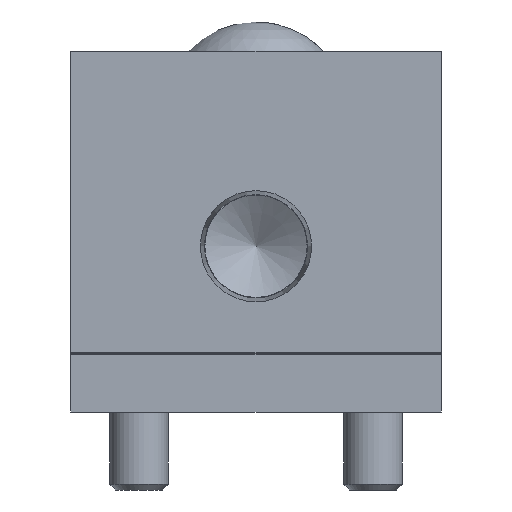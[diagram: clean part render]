
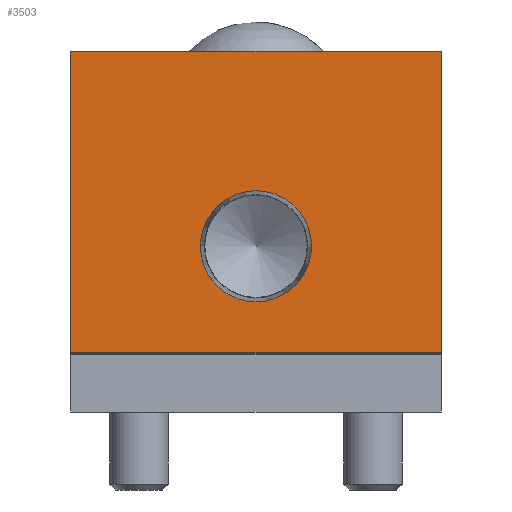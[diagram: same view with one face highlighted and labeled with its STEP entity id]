
A CAD part, front view. The second image highlights one B-rep face of the part: STEP entity #3503.
In plain terms, the highlighted planar face has unit normal (0, -1, 0).
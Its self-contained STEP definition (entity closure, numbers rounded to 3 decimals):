
#279=FACE_BOUND('',#782,.T.);
#368=CIRCLE('',#3704,5.704);
#524=FACE_OUTER_BOUND('',#781,.T.);
#781=EDGE_LOOP('',(#2510,#2511,#2512,#2513));
#782=EDGE_LOOP('',(#2514));
#1065=LINE('',#5096,#1323);
#1068=LINE('',#5101,#1326);
#1070=LINE('',#5109,#1328);
#1090=LINE('',#5158,#1348);
#1323=VECTOR('',#4101,30.9);
#1326=VECTOR('',#4106,38.);
#1328=VECTOR('',#4114,30.9);
#1348=VECTOR('',#4166,38.);
#1574=VERTEX_POINT('',#5093);
#1575=VERTEX_POINT('',#5095);
#1576=VERTEX_POINT('',#5099);
#1579=VERTEX_POINT('',#5107);
#1583=VERTEX_POINT('',#5121);
#1886=EDGE_CURVE('',#1575,#1574,#1065,.T.);
#1889=EDGE_CURVE('',#1574,#1576,#1068,.T.);
#1893=EDGE_CURVE('',#1579,#1576,#1070,.T.);
#1898=EDGE_CURVE('',#1583,#1583,#368,.T.);
#1917=EDGE_CURVE('',#1579,#1575,#1090,.T.);
#2510=ORIENTED_EDGE('',*,*,#1917,.T.);
#2511=ORIENTED_EDGE('',*,*,#1886,.T.);
#2512=ORIENTED_EDGE('',*,*,#1889,.T.);
#2513=ORIENTED_EDGE('',*,*,#1893,.F.);
#2514=ORIENTED_EDGE('',*,*,#1898,.T.);
#3171=PLANE('',#3766);
#3503=ADVANCED_FACE('',(#524,#279),#3171,.T.);
#3704=AXIS2_PLACEMENT_3D('',#5122,#4129,#4130);
#3766=AXIS2_PLACEMENT_3D('',#5320,#4304,#4305);
#4101=DIRECTION('',(0.,0.,1.));
#4106=DIRECTION('',(-1.,0.,0.));
#4114=DIRECTION('',(0.,0.,1.));
#4129=DIRECTION('center_axis',(0.,1.,0.));
#4130=DIRECTION('ref_axis',(1.,0.,0.));
#4166=DIRECTION('',(1.,0.,0.));
#4304=DIRECTION('center_axis',(0.,-1.,0.));
#4305=DIRECTION('ref_axis',(0.,0.,-1.));
#5093=CARTESIAN_POINT('',(19.,0.,37.));
#5095=CARTESIAN_POINT('',(19.,0.,6.1));
#5096=CARTESIAN_POINT('',(19.,0.,0.));
#5099=CARTESIAN_POINT('',(-19.,0.,37.));
#5101=CARTESIAN_POINT('',(19.,0.,37.));
#5107=CARTESIAN_POINT('',(-19.,0.,6.1));
#5109=CARTESIAN_POINT('',(-19.,0.,0.));
#5121=CARTESIAN_POINT('',(5.704,0.,17.));
#5122=CARTESIAN_POINT('Origin',(0.,0.,17.));
#5158=CARTESIAN_POINT('',(19.,0.,6.1));
#5320=CARTESIAN_POINT('Origin',(19.,0.,0.));
